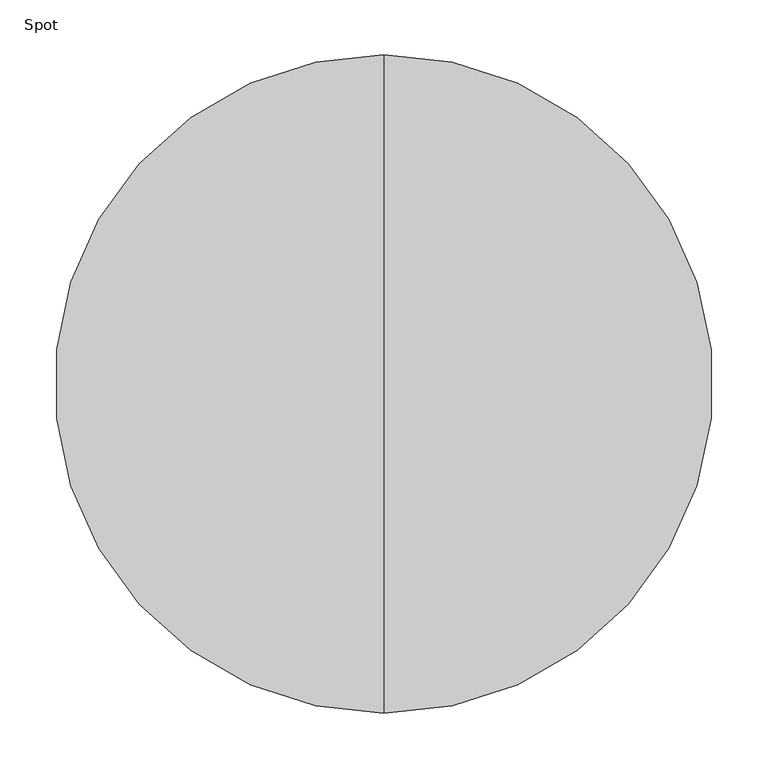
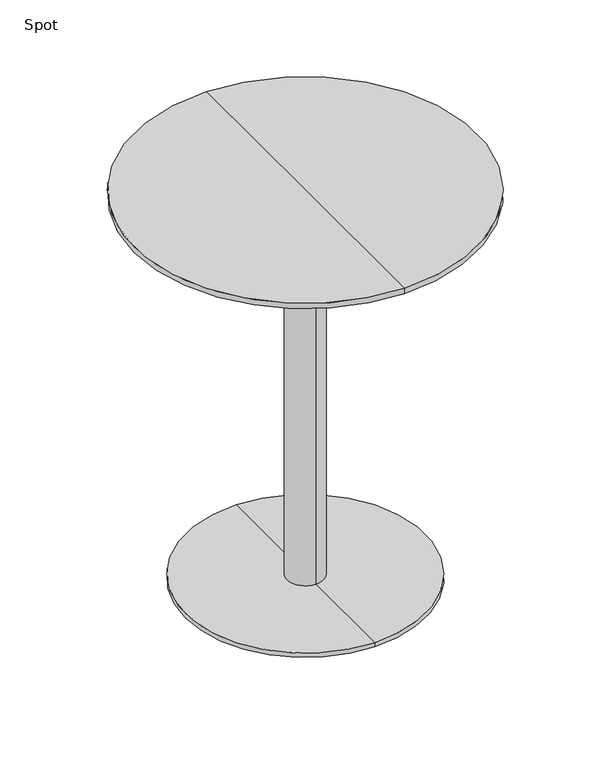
"""IFC4 building model written with IfcOpenShell, lengths in millimetres: furniture geometry, Spot : Bø60x72."""

import ifcopenshell
import ifcopenshell.guid

model = None  # the IFC model being written
_history = None  # IfcOwnerHistory: only IFC2X3 demands one
_inside = {}  # id of a spatial element -> (the spatial element, [elements in it])
_under = {}  # id of a project, library or spatial element -> (it, [spatial elements below it])
_declared = {}  # id of a project -> (the project, [libraries it declares])
_typed = {}  # id of a type object -> (the type object, [elements of that type])
_made_of = {}  # id of a material, layer set ... -> (it, [elements and type objects made of it])


def new_model(schema):
    """Start an empty IFC model of exactly this schema.

    Asked for "IFC4X3", IfcOpenShell would pick the latest addendum, in which some entities
    have other attributes; the version numbers below select the first issue.
    IFC2X3 requires an IfcOwnerHistory on every rooted entity: one is made here for all.
    """
    global model, _history
    if schema == "IFC4X3":
        model = ifcopenshell.file(schema_version=(4, 3, 0, 0))
    else:
        model = ifcopenshell.file(schema=schema)
    _inside.clear()
    _under.clear()
    _declared.clear()
    _typed.clear()
    _made_of.clear()
    _history = None
    if model.schema == "IFC2X3":
        org = make("IfcOrganization", Name="unknown")
        user = make(
            "IfcPersonAndOrganization",
            ThePerson=make("IfcPerson", FamilyName="unknown"),
            TheOrganization=org,
        )
        app = make(
            "IfcApplication",
            ApplicationDeveloper=org,
            Version="unknown",
            ApplicationFullName="unknown",
            ApplicationIdentifier="unknown",
        )
        _history = make(
            "IfcOwnerHistory",
            OwningUser=user,
            OwningApplication=app,
            ChangeAction="ADDED",
            CreationDate=0,
        )
    return model


def make(cls, **values):
    """One entity of the class cls with the attributes given. An attribute that is None is left unset."""
    return model.create_entity(
        cls, **{name: value for name, value in values.items() if value is not None}
    )


def rooted(cls, **values):
    """An entity with a GlobalId (a new one), such as an element, a storey or a relation."""
    return make(cls, GlobalId=ifcopenshell.guid.new(), OwnerHistory=_history, **values)


def si_unit(unit_type, name, prefix=None):
    """IfcSIUnit, for example si_unit("LENGTHUNIT", "METRE", prefix="MILLI")."""
    return make("IfcSIUnit", UnitType=unit_type, Prefix=prefix, Name=name)


def assignment(units):
    """IfcUnitAssignment: the units of a project."""
    return None if units is None else make("IfcUnitAssignment", Units=units)


def point(xyz):
    """IfcCartesianPoint."""
    return None if xyz is None else make("IfcCartesianPoint", Coordinates=xyz)


def direction(xyz):
    """IfcDirection."""
    return None if xyz is None else make("IfcDirection", DirectionRatios=xyz)


def frame(location, z_axis=None, x_axis=None):
    """IfcAxis2Placement3D, a coordinate frame: its origin and axes. An axis left out is left unset."""
    return make(
        "IfcAxis2Placement3D",
        Location=point(location),
        Axis=direction(z_axis),
        RefDirection=direction(x_axis),
    )


def origin():
    """The frame at (0, 0, 0) with its axes left unset."""
    return frame((0.0, 0.0, 0.0))


def place(relative_to, where):
    """IfcLocalPlacement: puts the frame where relative to a parent placement (None: the world)."""
    return make(
        "IfcLocalPlacement", PlacementRelTo=relative_to, RelativePlacement=where
    )


def context(
    kind, dimensions, precision=None, world=None, true_north=None, identifier=None
):
    """IfcGeometricRepresentationContext, for example the 3D "Model" context."""
    return make(
        "IfcGeometricRepresentationContext",
        ContextIdentifier=identifier,
        ContextType=kind,
        CoordinateSpaceDimension=dimensions,
        Precision=precision,
        WorldCoordinateSystem=world,
        TrueNorth=true_north,
    )


def project(units=None, contexts=None):
    """IfcProject with its units and contexts."""
    return rooted(
        "IfcProject",
        Name="project",
        RepresentationContexts=contexts,
        UnitsInContext=assignment(units),
    )


def spatial(cls, under=None, at=None, **own):
    """A site, building, storey or space (cls), placed at a placement, below another one or the project."""
    s = rooted(cls, ObjectPlacement=at, **own)
    if under is not None:
        _under.setdefault(under.id(), (under, []))[1].append(s)
    return s


def polyline(points):
    """IfcPolyline through the points."""
    return make("IfcPolyline", Points=[point(p) for p in points])


def circle_curve(where, radius):
    """IfcCircle in the frame where."""
    return make("IfcCircle", Position=where, Radius=radius)


def shape(context_of_items, identifier, shape_type, items):
    """IfcShapeRepresentation: the items that make up one representation, for example the "Body"."""
    return make(
        "IfcShapeRepresentation",
        ContextOfItems=context_of_items,
        RepresentationIdentifier=identifier,
        RepresentationType=shape_type,
        Items=items,
    )


def source(mapping_origin, context_of_items, identifier, shape_type, items):
    """IfcRepresentationMap: a shape defined once, which mapped items show again and again."""
    return make(
        "IfcRepresentationMap",
        MappingOrigin=mapping_origin,
        MappedRepresentation=shape(context_of_items, identifier, shape_type, items),
    )


def transform(
    local_origin,
    x_axis=None,
    y_axis=None,
    z_axis=None,
    scale=None,
    scale2=None,
    scale3=None,
    uniform=True,
):
    """IfcCartesianTransformationOperator3D, or its non-uniform kind. x_axis, y_axis, z_axis: its Axis1, 2, 3."""
    if uniform:
        return make(
            "IfcCartesianTransformationOperator3D",
            Axis1=direction(x_axis),
            Axis2=direction(y_axis),
            LocalOrigin=point(local_origin),
            Scale=scale,
            Axis3=direction(z_axis),
        )
    return make(
        "IfcCartesianTransformationOperator3DnonUniform",
        Axis1=direction(x_axis),
        Axis2=direction(y_axis),
        LocalOrigin=point(local_origin),
        Scale=scale,
        Axis3=direction(z_axis),
        Scale2=scale2,
        Scale3=scale3,
    )


def mapped(mapping_source, mapping_target):
    """IfcMappedItem: shows the shape of a source again, moved by a transform."""
    return make(
        "IfcMappedItem", MappingSource=mapping_source, MappingTarget=mapping_target
    )


def made_of(thing, what):
    """Note that an element or type object is made of a material, layer set ...; save() writes the relation."""
    if what is not None:
        _made_of.setdefault(what.id(), (what, []))[1].append(thing)
    return thing


def element(
    cls,
    number,
    at=None,
    inside=None,
    cuts=None,
    type_object=None,
    material=None,
    context=None,
    identifier="Body",
    shape_type=None,
    held_by="IfcProductDefinitionShape",
    body=None,
    shapes=None,
    **own,
):
    """One element of the class cls, such as IfcWall. Its Tag is "e" and its number.

    at: its placement. inside: the storey or other place that contains it. cuts: it is an
    opening in that element (IfcRelVoidsElement). A single representation is given by context,
    identifier, shape_type and body (its items); several are given by shapes. held_by: the class
    of the entity that holds the representations. save() writes the other relations.
    """
    e = rooted(cls, Tag="e%d" % number, ObjectPlacement=at, **own)
    if body is not None:
        shapes = [shape(context, identifier, shape_type, body)]
    if shapes is not None:
        e.Representation = make(held_by, Representations=shapes)
    if inside is not None:
        _inside.setdefault(inside.id(), (inside, []))[1].append(e)
    if cuts is not None:
        rooted(
            "IfcRelVoidsElement", RelatingBuildingElement=cuts, RelatedOpeningElement=e
        )
    if type_object is not None:
        _typed.setdefault(type_object.id(), (type_object, []))[1].append(e)
    return made_of(e, material)


def aggregate(whole, parts):
    """IfcRelAggregates: a whole, such as a stair, and the parts it consists of."""
    return rooted("IfcRelAggregates", RelatingObject=whole, RelatedObjects=parts)


def save(model, path):
    """Write the relations noted so far, then the file.

    IfcRelAggregates (storeys below a building ...), IfcRelContainedInSpatialStructure (elements
    in a storey), IfcRelDefinesByType, IfcRelAssociatesMaterial and IfcRelDeclares: one each for
    every whole, place, type object, material and project.
    """
    for whole, parts in _under.values():
        aggregate(whole, parts)
    for where, things in _inside.values():
        rooted(
            "IfcRelContainedInSpatialStructure",
            RelatedElements=things,
            RelatingStructure=where,
        )
    for kind, things in _typed.values():
        rooted("IfcRelDefinesByType", RelatedObjects=things, RelatingType=kind)
    for what, things in _made_of.values():
        rooted("IfcRelAssociatesMaterial", RelatedObjects=things, RelatingMaterial=what)
    for by, libraries in _declared.values():
        rooted("IfcRelDeclares", RelatingContext=by, RelatedDefinitions=libraries)
    model.write(path)


def plane_surface(at):
    """IfcPlane: the flat surface through the origin of the frame at, square to its z axis."""
    return make("IfcPlane", Position=at)


def cylinder_surface(at, radius):
    """IfcCylindricalSurface: all points at the distance radius from the z axis of the frame at."""
    return make("IfcCylindricalSurface", Position=at, Radius=radius)


def revolved_surface(curve, axis_point, axis_direction):
    """IfcSurfaceOfRevolution: the curve turned about the line through axis_point along axis_direction."""
    return make(
        "IfcSurfaceOfRevolution",
        SweptCurve=make("IfcArbitraryOpenProfileDef", ProfileType="CURVE", Curve=curve),
        AxisPosition=make("IfcAxis1Placement", Location=point(axis_point), Axis=direction(axis_direction)),
    )


def advanced_brep(points, edges, surfaces, faces):
    """IfcAdvancedBrep: a solid bounded by faces that lie on surfaces and meet in shared edges.

    An edge is (start, end): straight between two places in points (the first is 0);
    or (start, end, curve); or (start, end, curve, False) where it runs against its curve.
    A face is (place in surfaces, loops), or (place, loops, False) where it looks against
    its surface's normal. A loop lists edges by number (the first is 1), with a minus sign
    where the edge is run from its end to its start. The first loop is the outer one.
    """
    corners = [point(p) for p in points]
    vertices = [make("IfcVertexPoint", VertexGeometry=c) for c in corners]
    made = []
    for start, end, *more in edges:
        made.append(
            make(
                "IfcEdgeCurve",
                EdgeStart=vertices[start],
                EdgeEnd=vertices[end],
                EdgeGeometry=more[0] if more else make("IfcPolyline", Points=[corners[start], corners[end]]),
                SameSense=more[1] if len(more) > 1 else True,
            )
        )
    hull = []
    for where, loops, *sense in faces:
        bounds = []
        for j, loop in enumerate(loops):
            ring = [make("IfcOrientedEdge", EdgeElement=made[abs(k) - 1], Orientation=k > 0) for k in loop]
            bounds.append(
                make(
                    "IfcFaceOuterBound" if j == 0 else "IfcFaceBound",
                    Bound=make("IfcEdgeLoop", EdgeList=ring),
                    Orientation=True,
                )
            )
        hull.append(make("IfcAdvancedFace", Bounds=bounds, FaceSurface=surfaces[where], SameSense=sense[0] if sense else True))
    return make("IfcAdvancedBrep", Outer=make("IfcClosedShell", CfsFaces=hull))


def spot_0e4fbe69(model_context):
    return source(origin(), model_context, "Body", "AdvancedBrep", [
        advanced_brep(
        [(0.0, 300.0, 720.0), (0.0, -300.0, 720.0), (0.0, 0.0, 720.0), (0.0, 300.0, 710.25), (0.0, -300.0, 710.25), (0.0, 254.2823776, 698.0), (0.0, -254.2823776, 698.0), (0.0, 0.0, 698.0)],
        [
            (0, 1, circle_curve(frame((0.0, 0.0, 720.0), z_axis=(0.0, 0.0, 1.0), x_axis=(0.0, -1.0, 0.0)), 300.0)),
            (1, 2),
            (2, 0),
            (1, 0, circle_curve(frame((0.0, 0.0, 720.0), z_axis=(0.0, 0.0, 1.0), x_axis=(0.0, -1.0, 0.0)), 300.0)),
            (3, 4, circle_curve(frame((0.0, 0.0, 710.25), z_axis=(0.0, 0.0, 1.0), x_axis=(0.0, -1.0, 0.0)), 300.0)),
            (4, 1),
            (0, 3),
            (4, 3, circle_curve(frame((0.0, 0.0, 710.25), z_axis=(0.0, 0.0, 1.0), x_axis=(0.0, -1.0, 0.0)), 300.0)),
            (5, 6, circle_curve(frame((0.0, 0.0, 698.0), z_axis=(0.0, 0.0, 1.0), x_axis=(0.0, -1.0, 0.0)), 254.2823776)),
            (6, 4),
            (3, 5),
            (6, 5, circle_curve(frame((0.0, 0.0, 698.0), z_axis=(0.0, 0.0, 1.0), x_axis=(0.0, -1.0, 0.0)), 254.2823776)),
            (7, 6),
            (5, 7),
        ],
        [
            plane_surface(frame((0.0, 0.0, 720.0), z_axis=(0.0, 0.0, 1.0), x_axis=(0.0, -1.0, 0.0))),
            cylinder_surface(frame((0.0, 0.0, 800.0), z_axis=(0.0, 0.0, -1.0), x_axis=(0.0, -1.0, 0.0)), 300.0),
            revolved_surface(polyline([(0.0, -300.0, 710.25), (0.0, -254.2823776, 698.0)]), (0.0, 0.0, 800.0), (0.0, 0.0, -1.0)),
            plane_surface(frame((0.0, 0.0, 698.0), z_axis=(0.0, 0.0, -1.0), x_axis=(0.0, -1.0, 0.0))),
        ],
        [
            (0, [[1, 2, 3]]),
            (0, [[4, -3, -2]]),
            (1, [[5, 6, -1, 7]]),
            (1, [[8, -7, -4, -6]]),
            (2, [[9, 10, -5, 11]]),
            (2, [[12, -11, -8, -10]]),
            (3, [[13, -9, 14]]),
            (3, [[-14, -12, -13]]),
        ],
    ),
        advanced_brep(
        [(0.0, 32.0, 10.0), (0.0, -32.0, 10.0), (0.0, -32.0, 667.406916), (0.0, 32.0, 667.406916), (0.0, 210.0, 10.0), (0.0, -210.0, 10.0), (0.0, 210.0, 2.0), (0.0, -210.0, 2.0), (0.0, 0.0, 2.0), (0.0, 150.0, 698.0), (0.0, -150.0, 698.0), (0.0, 0.0, 698.0), (0.0, 150.0, 686.7213673), (0.0, -150.0, 686.7213673)],
        [
            (0, 1, circle_curve(frame((0.0, 0.0, 10.0), z_axis=(0.0, 0.0, 1.0), x_axis=(0.0, -1.0, 0.0)), 32.0)),
            (1, 2),
            (2, 3, circle_curve(frame((0.0, 0.0, 667.406916), z_axis=(0.0, 0.0, -1.0), x_axis=(0.0, -1.0, 0.0)), 32.0)),
            (3, 0),
            (1, 0, circle_curve(frame((0.0, 0.0, 10.0), z_axis=(0.0, 0.0, 1.0), x_axis=(0.0, -1.0, 0.0)), 32.0)),
            (3, 2, circle_curve(frame((0.0, 0.0, 667.406916), z_axis=(0.0, 0.0, -1.0), x_axis=(0.0, -1.0, 0.0)), 32.0)),
            (4, 5, circle_curve(frame((0.0, 0.0, 10.0), z_axis=(0.0, 0.0, 1.0), x_axis=(0.0, -1.0, 0.0)), 210.0)),
            (5, 1),
            (0, 4),
            (5, 4, circle_curve(frame((0.0, 0.0, 10.0), z_axis=(0.0, 0.0, 1.0), x_axis=(0.0, -1.0, 0.0)), 210.0)),
            (6, 7, circle_curve(frame((0.0, 0.0, 2.0), z_axis=(0.0, 0.0, 1.0), x_axis=(0.0, -1.0, 0.0)), 210.0)),
            (7, 5),
            (4, 6),
            (7, 6, circle_curve(frame((0.0, 0.0, 2.0), z_axis=(0.0, 0.0, 1.0), x_axis=(0.0, -1.0, 0.0)), 210.0)),
            (8, 7),
            (6, 8),
            (9, 10, circle_curve(frame((0.0, 0.0, 698.0), z_axis=(0.0, 0.0, 1.0), x_axis=(0.0, -1.0, 0.0)), 150.0)),
            (10, 11),
            (11, 9),
            (10, 9, circle_curve(frame((0.0, 0.0, 698.0), z_axis=(0.0, 0.0, 1.0), x_axis=(0.0, -1.0, 0.0)), 150.0)),
            (12, 13, circle_curve(frame((0.0, 0.0, 686.7213673), z_axis=(0.0, 0.0, 1.0), x_axis=(0.0, -1.0, 0.0)), 150.0)),
            (13, 10),
            (9, 12),
            (13, 12, circle_curve(frame((0.0, 0.0, 686.7213673), z_axis=(0.0, 0.0, 1.0), x_axis=(0.0, -1.0, 0.0)), 150.0)),
            (2, 13),
            (12, 3),
        ],
        [
            cylinder_surface(frame((0.0, 0.0, 1060.0), z_axis=(0.0, 0.0, -1.0), x_axis=(0.0, -1.0, 0.0)), 32.0),
            plane_surface(frame((0.0, 0.0, 10.0), z_axis=(0.0, 0.0, 1.0), x_axis=(0.0, -1.0, 0.0))),
            cylinder_surface(frame((0.0, 0.0, 1060.0), z_axis=(0.0, 0.0, -1.0), x_axis=(0.0, -1.0, 0.0)), 210.0),
            plane_surface(frame((0.0, 0.0, 2.0), z_axis=(0.0, 0.0, -1.0), x_axis=(0.0, -1.0, 0.0))),
            plane_surface(frame((0.0, 0.0, 698.0), z_axis=(0.0, 0.0, 1.0), x_axis=(0.0, -1.0, 0.0))),
            cylinder_surface(frame((0.0, 0.0, 1060.0), z_axis=(0.0, 0.0, -1.0), x_axis=(0.0, -1.0, 0.0)), 150.0),
            revolved_surface(polyline([(0.0, -150.0, 686.7213673), (0.0, -32.0, 667.406916)]), (0.0, 0.0, 1060.0), (0.0, 0.0, -1.0)),
        ],
        [
            (0, [[1, 2, 3, 4]]),
            (0, [[5, -4, 6, -2]]),
            (1, [[7, 8, -1, 9]]),
            (1, [[10, -9, -5, -8]]),
            (2, [[11, 12, -7, 13]]),
            (2, [[14, -13, -10, -12]]),
            (3, [[15, -11, 16]]),
            (3, [[-16, -14, -15]]),
            (4, [[17, 18, 19]]),
            (4, [[20, -19, -18]]),
            (5, [[21, 22, -17, 23]]),
            (5, [[24, -23, -20, -22]]),
            (6, [[-3, 25, -21, 26]]),
            (6, [[-6, -26, -24, -25]]),
        ],
    ),
    ])


if __name__ == "__main__":
    model = new_model("IFC4")
    model_context = context("Model", 3, world=origin())
    ifc_project = project(units=[si_unit("LENGTHUNIT", "METRE", prefix="MILLI")], contexts=[model_context])
    site = spatial("IfcSite", under=ifc_project)
    building = spatial("IfcBuilding", under=site)
    placement = place(None, origin())
    spot_shape = spot_0e4fbe69(model_context)
    element("IfcFurniture", 1, ObjectType="Spot : Bø60x72", at=placement, inside=building, context=model_context, shape_type="MappedRepresentation", body=[
        mapped(spot_shape, transform((0.0, 0.0, 0.0), x_axis=(1.0, 0.0, 0.0), y_axis=(0.0, 1.0, 0.0), z_axis=(0.0, 0.0, 1.0))),
    ])
    save(model, "model.ifc")
